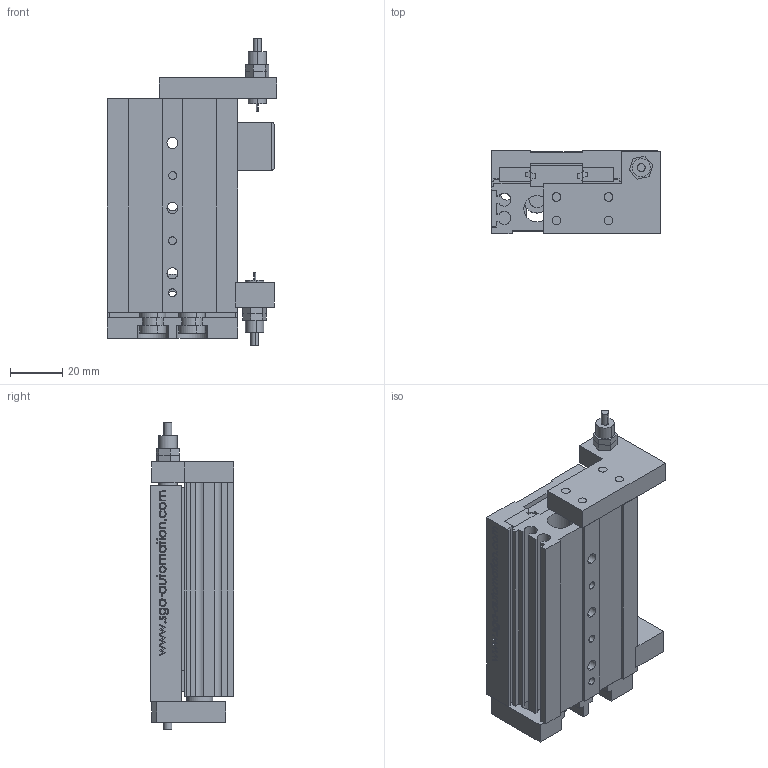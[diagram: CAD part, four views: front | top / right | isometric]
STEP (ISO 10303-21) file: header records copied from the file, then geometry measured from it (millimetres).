
FILE_DESCRIPTION (( 'STEP AP203' ), '1' );
FILE_NAME ('GDX12-40.STEP', '2013-02-25T08:27:39', ( 'Conseil Régional Haute-Normandie' ), ( 'Conseil Régional Haute-Normandie' ), 'SwSTEP 2.0', 'SolidWorks 2010', '' );
FILE_SCHEMA (( 'CONFIG_CONTROL_DESIGN' ));
Length unit declared in the file: millimetre
Products named in the file (14): GDX25-40 Pièce9_Default; GDX25-40 Pièce8_Default; GDX25-10 Pièce14_Default; GDX25-10 Pièce12_Default; GDX 12-10 Pièce5_Default; GDX12-40; GDX12-40 Pièce6_Default; GDX12-40 Pièce7_Default; GDX12-10 Pièce3_Default; GDX12-10 pièce 1; GDX12-10 Pièce 2; GDX25-10 Pièce11_Default; GDX25-10 Pièce13_Default; GDX12-10 Pièce 4
Assembly tree (27 placements, depth 2):
  GDX12-40
    GDX25-40 Pièce8_Default  x2
    GDX25-10 Pièce12_Default  x4
    GDX25-10 Pièce14_Default  x2
    GDX25-10 Pièce13_Default  x8
    GDX12-10 pièce 1
    GDX12-40 Pièce6_Default
    GDX12-40 Pièce7_Default
    GDX12-10 Pièce 2
    GDX25-10 Pièce11_Default  x2
    GDX12-10 Pièce3_Default
    GDX 12-10 Pièce5_Default  x2
    GDX12-10 Pièce 4
    GDX25-40 Pièce9_Default
Bounding box: 65 x 32 x 117.76 mm (x, y, z)
Volume: 124517.1 mm3; surface area: 62710.7 mm2
Topology: 27 solids, 27 shells, 738 faces, 1880 edges, 1230 vertices
Faces by surface type: plane 389, cylinder 188, bspline 133, cone 24, torus 4
Entity records: 31206 total; most frequent: CARTESIAN_POINT 14634, ORIENTED_EDGE 3220, DIRECTION 2630, EDGE_CURVE 1610, VERTEX_POINT 1066, LINE 1062, VECTOR 1062, AXIS2_PLACEMENT_3D 784
